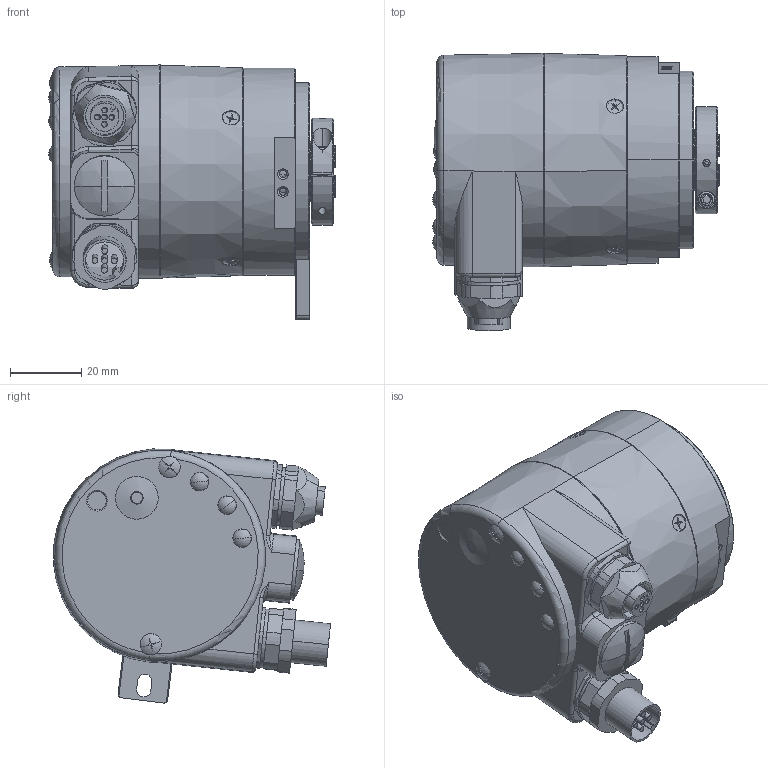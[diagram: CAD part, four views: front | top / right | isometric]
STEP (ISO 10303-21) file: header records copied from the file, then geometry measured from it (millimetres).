
FILE_DESCRIPTION (( 'STEP AP214' ), '1' );
FILE_NAME ('5878.1422.XXXX.STEP', '2008-06-04T06:08:46', ( 'admin' ), ( 'Fritz Kübler GmbH' ), 'SwSTEP 2.0', 'SolidWorks 2007', '' );
FILE_SCHEMA (( 'AUTOMOTIVE_DESIGN' ));
Length unit declared in the file: millimetre
Products named in the file (1): 5878.1422.XXXX
Bounding box: 80.4 x 77.69 x 71.26 mm (x, y, z)
Surface area: 30208.2 mm2 (no closed solid volume)
Topology: 0 solids, 28 shells, 479 faces, 1329 edges, 874 vertices
Faces by surface type: plane 207, cylinder 170, cone 59, torus 22, sphere 13, bspline 8
Entity records: 21443 total; most frequent: CARTESIAN_POINT 3770, DIRECTION 2727, ORIENTED_EDGE 2393, EDGE_CURVE 1324, AXIS2_PLACEMENT_3D 1019, VERTEX_POINT 874, VECTOR 689, LINE 689
